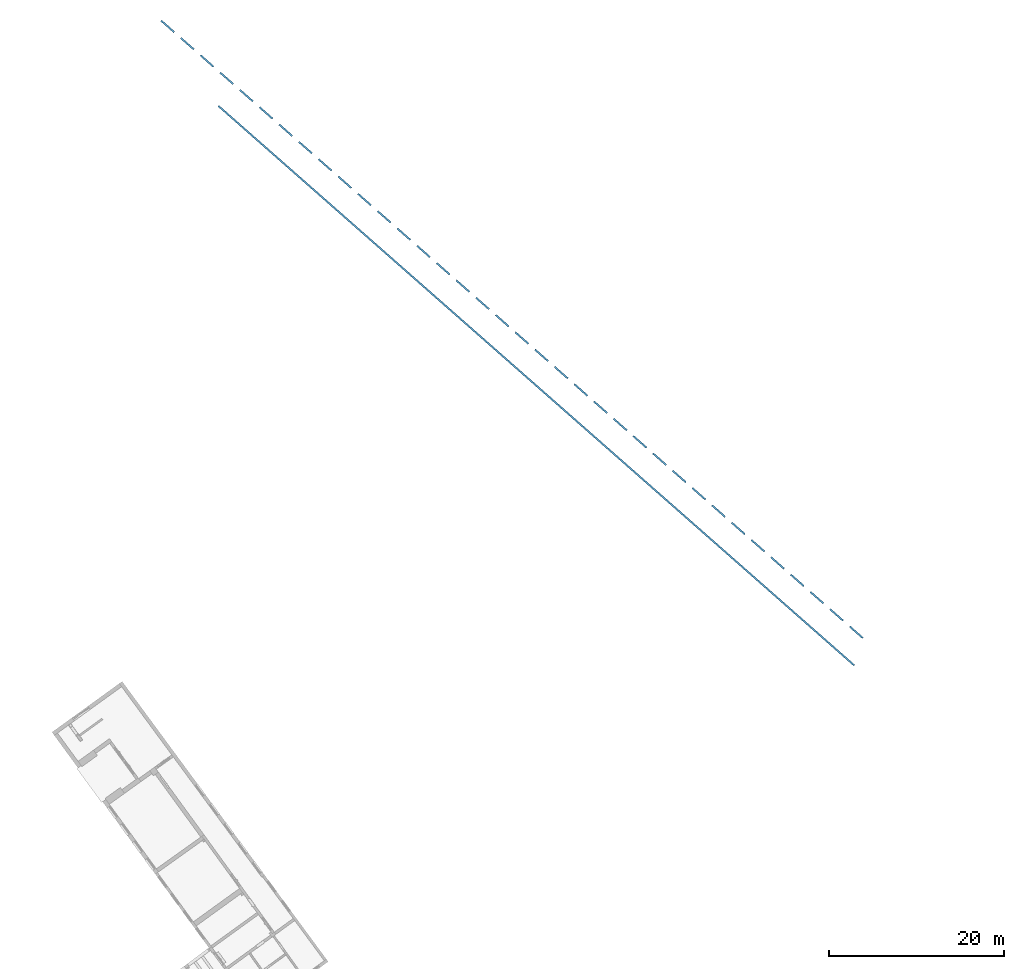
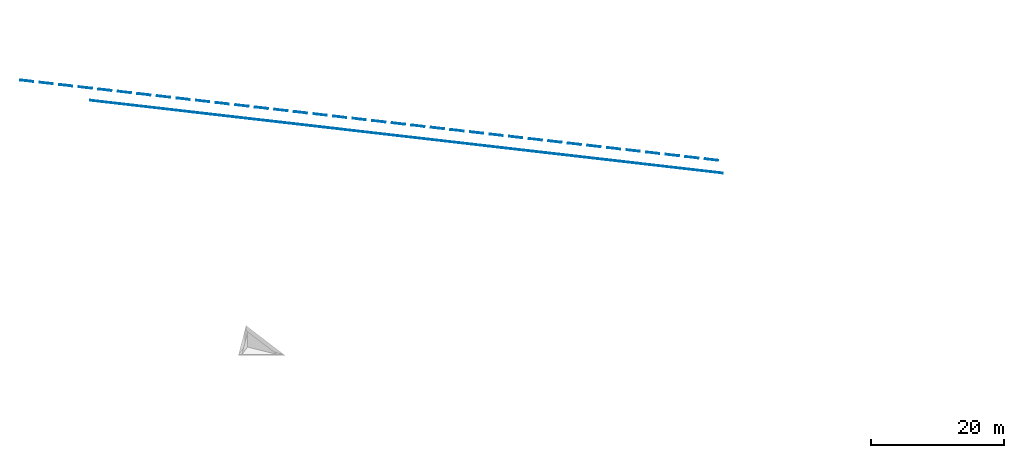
# One storey, part 107 of 157: 37 walls.
"""IFC2X3 building model written with IfcOpenShell, lengths in millimetres."""

from ifc_helpers import new_model, entity, si_unit, converted_unit, derived_unit, direction, frame, frame_2d, origin, origin_2d_with_axis, place, context, subcontext, project, spatial, rectangle, extrude, material, type_object, element, save


model = new_model("IFC2X3")

# Units and contexts
model_context = context("Model", 3, precision=0.01, world=origin(), true_north=direction((6.123031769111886e-17, 1.0)))
body_context = subcontext(model_context, "Body", "Model", "MODEL_VIEW")
ifc_project = project(units=[si_unit("LENGTHUNIT", "METRE", prefix="MILLI"), si_unit("AREAUNIT", "SQUARE_METRE"), si_unit("VOLUMEUNIT", "CUBIC_METRE"), converted_unit("PLANEANGLEUNIT", "DEGREE", entity("IfcRatioMeasure", 0.017453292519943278), si_unit("PLANEANGLEUNIT", "RADIAN"), dimensions=[0, 0, 0, 0, 0, 0, 0]), si_unit("MASSUNIT", "GRAM", prefix="KILO"), derived_unit("MASSDENSITYUNIT", [(si_unit("MASSUNIT", "GRAM", prefix="KILO"), 1), (si_unit("LENGTHUNIT", "METRE"), -3)]), derived_unit("MOMENTOFINERTIAUNIT", [(si_unit("LENGTHUNIT", "METRE"), 4)]), si_unit("TIMEUNIT", "SECOND"), si_unit("FREQUENCYUNIT", "HERTZ"), si_unit("THERMODYNAMICTEMPERATUREUNIT", "DEGREE_CELSIUS"), derived_unit("THERMALTRANSMITTANCEUNIT", [(si_unit("MASSUNIT", "GRAM", prefix="KILO"), 1), (si_unit("THERMODYNAMICTEMPERATUREUNIT", "KELVIN"), -1), (si_unit("TIMEUNIT", "SECOND"), -3)]), derived_unit("THERMALCONDUCTANCEUNIT", [(si_unit("MASSUNIT", "GRAM", prefix="KILO"), 1), (si_unit("LENGTHUNIT", "METRE"), 1), (si_unit("THERMODYNAMICTEMPERATUREUNIT", "KELVIN"), -1), (si_unit("TIMEUNIT", "SECOND"), -3)]), derived_unit("VOLUMETRICFLOWRATEUNIT", [(si_unit("LENGTHUNIT", "METRE"), 3), (si_unit("TIMEUNIT", "SECOND"), -1)]), derived_unit("MASSFLOWRATEUNIT", [(si_unit("MASSUNIT", "GRAM", prefix="KILO"), 1), (si_unit("TIMEUNIT", "SECOND"), -1)]), derived_unit("ROTATIONALFREQUENCYUNIT", [(si_unit("TIMEUNIT", "SECOND"), -1)]), si_unit("ELECTRICCURRENTUNIT", "AMPERE"), si_unit("ELECTRICVOLTAGEUNIT", "VOLT"), si_unit("POWERUNIT", "WATT"), converted_unit("FORCEUNIT", "KIP", entity("IfcRatioMeasure", 2.088543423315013e-05), si_unit("FORCEUNIT", "NEWTON"), dimensions=[1, 1, -2, 0, 0, 0, 0]), si_unit("ILLUMINANCEUNIT", "LUX"), si_unit("LUMINOUSFLUXUNIT", "LUMEN"), si_unit("LUMINOUSINTENSITYUNIT", "CANDELA"), derived_unit("USERDEFINED", [(si_unit("MASSUNIT", "GRAM", prefix="KILO"), -1), (si_unit("LENGTHUNIT", "METRE"), -2), (si_unit("TIMEUNIT", "SECOND"), 3), (si_unit("LUMINOUSFLUXUNIT", "LUMEN"), 1)]), derived_unit("USERDEFINED", [(si_unit("MASSUNIT", "GRAM", prefix="KILO"), 1), (si_unit("LENGTHUNIT", "METRE"), 3), (si_unit("TIMEUNIT", "SECOND"), -3), (si_unit("ELECTRICCURRENTUNIT", "AMPERE"), -2)]), derived_unit("USERDEFINED", [(si_unit("LENGTHUNIT", "METRE"), 2), (si_unit("TIMEUNIT", "SECOND"), -2)]), derived_unit("SOUNDPOWERUNIT", [(si_unit("MASSUNIT", "GRAM", prefix="KILO"), 1), (si_unit("LENGTHUNIT", "METRE"), 2), (si_unit("TIMEUNIT", "SECOND"), -3)]), derived_unit("SOUNDPRESSUREUNIT", [(si_unit("MASSUNIT", "GRAM", prefix="KILO"), 1), (si_unit("LENGTHUNIT", "METRE"), -1), (si_unit("TIMEUNIT", "SECOND"), -2)]), derived_unit("LINEARVELOCITYUNIT", [(si_unit("LENGTHUNIT", "METRE"), 1), (si_unit("TIMEUNIT", "SECOND"), -1)]), si_unit("PRESSUREUNIT", "PASCAL"), derived_unit("USERDEFINED", [(si_unit("LENGTHUNIT", "METRE"), -2), (si_unit("MASSUNIT", "GRAM", prefix="KILO"), 1), (si_unit("TIMEUNIT", "SECOND"), -2)]), derived_unit("LINEARFORCEUNIT", [(si_unit("MASSUNIT", "GRAM", prefix="KILO"), 1), (si_unit("LENGTHUNIT", "METRE"), 1), (si_unit("TIMEUNIT", "SECOND"), -2), (si_unit("LENGTHUNIT", "METRE"), -1)]), derived_unit("PLANARFORCEUNIT", [(si_unit("MASSUNIT", "GRAM", prefix="KILO"), 1), (si_unit("LENGTHUNIT", "METRE"), 1), (si_unit("TIMEUNIT", "SECOND"), -2), (si_unit("LENGTHUNIT", "METRE"), -2)]), derived_unit("SPECIFICHEATCAPACITYUNIT", [(si_unit("LENGTHUNIT", "METRE"), 2), (si_unit("TIMEUNIT", "SECOND"), -2), (si_unit("THERMODYNAMICTEMPERATUREUNIT", "KELVIN"), -1)]), derived_unit("VAPORPERMEABILITYUNIT", [(si_unit("TIMEUNIT", "SECOND"), 1), (si_unit("LENGTHUNIT", "METRE"), -1)]), derived_unit("DYNAMICVISCOSITYUNIT", [(si_unit("MASSUNIT", "GRAM", prefix="KILO"), 1), (si_unit("LENGTHUNIT", "METRE"), -1), (si_unit("TIMEUNIT", "SECOND"), -1)]), derived_unit("THERMALEXPANSIONCOEFFICIENTUNIT", [(si_unit("THERMODYNAMICTEMPERATUREUNIT", "KELVIN"), -1)])], contexts=[model_context])

# Site, building, storey
site_placement = place(None, frame((0.0, 0.0, 0.0), z_axis=(0.0, 0.0, 1.0), x_axis=(0.8191520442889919, 0.5735764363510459, 0.0)))
site = spatial("IfcSite", under=ifc_project, at=site_placement, Name="Default", CompositionType="ELEMENT")
building_placement = place(site_placement, origin())
building = spatial("IfcBuilding", under=site, at=building_placement, CompositionType="ELEMENT")
storey_placement = place(building_placement, origin())
storey = spatial("IfcBuildingStorey", under=building, at=storey_placement, Name="1.EG +0.00", CompositionType="ELEMENT", Elevation=-4.331468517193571e-12)

# Walls
ifc_material = material(Name="road_markirovka")
wall_type_1 = type_object("IfcWallType", Name="04", PredefinedType="NOTDEFINED", material=ifc_material)
wall_1_placement = place(storey_placement, frame((-134832.72497900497, 255660.8049366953, 0.0), z_axis=(0.0, 0.0, 1.0), x_axis=(0.0, 1.0, 0.0)))
element("IfcWall", 1, at=wall_1_placement, inside=storey, type_object=wall_type_1, material=ifc_material, Name="04 203791:04 203791", ObjectType="04 203791:04 203791", context=body_context, shape_type="SweptSolid", body=[
    extrude(rectangle(XDim=199.99999999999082, YDim=2000.0000000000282, at=frame_2d((8.419931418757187e-12, -2.0463630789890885e-12), x_axis=(1.0, 0.0))), frame((995.3372944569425, -333.28290221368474, 0.0), z_axis=(0.0, 0.0, 1.0), x_axis=(0.23611027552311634, -0.9717262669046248, 0.0)), (0.0, 0.0, 1.0), 9.999999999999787),
])
wall_type_2 = type_object("IfcWallType", Name="04", PredefinedType="NOTDEFINED", material=ifc_material)
wall_2_placement = place(storey_placement, frame((-134124.39415243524, 252745.62613598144, 0.0), z_axis=(0.0, 0.0, 1.0), x_axis=(0.0, 1.0, 0.0)))
element("IfcWall", 2, at=wall_2_placement, inside=storey, type_object=wall_type_2, material=ifc_material, Name="04 203795:04 203795", ObjectType="04 203795:04 203795", context=body_context, shape_type="SweptSolid", body=[
    extrude(rectangle(XDim=200.00000000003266, YDim=2000.000000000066, at=frame_2d((2.093258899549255e-11, 1.2789769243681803e-11), x_axis=(1.0, 0.0))), frame((995.3372944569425, -333.28290221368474, 0.0), z_axis=(0.0, 0.0, 1.0), x_axis=(0.2361102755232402, -0.9717262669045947, 0.0)), (0.0, 0.0, 1.0), 9.999999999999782),
])
wall_type_3 = type_object("IfcWallType", Name="04", PredefinedType="NOTDEFINED", material=ifc_material)
wall_3_placement = place(storey_placement, frame((-131999.40167272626, 244000.08973384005, 0.0), z_axis=(0.0, 0.0, 1.0), x_axis=(0.0, 1.0, 0.0)))
element("IfcWall", 3, at=wall_3_placement, inside=storey, type_object=wall_type_3, material=ifc_material, Name="04 203798:04 203798", ObjectType="04 203798:04 203798", context=body_context, shape_type="SweptSolid", body=[
    extrude(rectangle(XDim=199.99999999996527, YDim=2000.0000000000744, at=frame_2d((8.661515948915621e-12, -3.780087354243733e-11), x_axis=(1.0, 0.0))), frame((995.3372944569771, -333.282902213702, 0.0), z_axis=(0.0, 0.0, 1.0), x_axis=(0.2361102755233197, -0.9717262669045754, 0.0)), (0.0, 0.0, 1.0), 9.999999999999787),
])
wall_type_4 = type_object("IfcWallType", Name="04", PredefinedType="NOTDEFINED", material=ifc_material)
wall_4_placement = place(storey_placement, frame((-132707.73249929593, 246915.26853455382, 0.0), z_axis=(0.0, 0.0, 1.0), x_axis=(0.0, 1.0, 0.0)))
element("IfcWall", 4, at=wall_4_placement, inside=storey, type_object=wall_type_4, material=ifc_material, Name="04 203799:04 203799", ObjectType="04 203799:04 203799", context=body_context, shape_type="SweptSolid", body=[
    extrude(rectangle(XDim=199.99999999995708, YDim=2000.000000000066, at=frame_2d((1.27613475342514e-11, -2.091837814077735e-11), x_axis=(1.0, 0.0))), frame((995.3372944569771, -333.2829022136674, 0.0), z_axis=(0.0, 0.0, 1.0), x_axis=(0.2361102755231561, -0.9717262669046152, 0.0)), (0.0, 0.0, 1.0), 9.999999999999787),
])
wall_type_5 = type_object("IfcWallType", Name="04", PredefinedType="NOTDEFINED", material=ifc_material)
wall_5_placement = place(storey_placement, frame((-130582.74001958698, 238169.7321324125, 0.0), z_axis=(0.0, 0.0, 1.0), x_axis=(0.0, 1.0, 0.0)))
element("IfcWall", 5, at=wall_5_placement, inside=storey, type_object=wall_type_5, material=ifc_material, Name="04 203802:04 203802", ObjectType="04 203802:04 203802", context=body_context, shape_type="SweptSolid", body=[
    extrude(rectangle(XDim=200.00000000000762, YDim=1999.9999999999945, at=origin_2d_with_axis()), frame((995.3372944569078, -333.28290221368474, 0.0), z_axis=(0.0, 0.0, 1.0), x_axis=(0.23611027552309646, -0.9717262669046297, 0.0)), (0.0, 0.0, 1.0), 9.999999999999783),
])
wall_type_6 = type_object("IfcWallType", Name="04", PredefinedType="NOTDEFINED", material=ifc_material)
wall_6_placement = place(storey_placement, frame((-129874.40919301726, 235254.55333169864, 0.0), z_axis=(0.0, 0.0, 1.0), x_axis=(0.0, 1.0, 0.0)))
element("IfcWall", 6, at=wall_6_placement, inside=storey, type_object=wall_type_6, material=ifc_material, Name="04 203804:04 203804", ObjectType="04 203804:04 203804", context=body_context, shape_type="SweptSolid", body=[
    extrude(rectangle(XDim=200.00000000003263, YDim=2000.00000000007, at=frame_2d((-4.32720526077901e-12, 1.887201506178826e-11), x_axis=(1.0, 0.0))), frame((995.3372944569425, -333.28290221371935, 0.0), z_axis=(0.0, 0.0, 1.0), x_axis=(0.2361102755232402, -0.9717262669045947, 0.0)), (0.0, 0.0, 1.0), 9.999999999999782),
])
wall_type_7 = type_object("IfcWallType", Name="04", PredefinedType="NOTDEFINED", material=ifc_material)
wall_7_placement = place(storey_placement, frame((-131291.07084615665, 241084.91093312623, 0.0), z_axis=(0.0, 0.0, 1.0), x_axis=(0.0, 1.0, 0.0)))
element("IfcWall", 7, at=wall_7_placement, inside=storey, type_object=wall_type_7, material=ifc_material, Name="04 203806:04 203806", ObjectType="04 203806:04 203806", context=body_context, shape_type="SweptSolid", body=[
    extrude(rectangle(XDim=200.00000000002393, YDim=2000.0000000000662, at=frame_2d((-4.092726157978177e-12, -1.6825651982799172e-11), x_axis=(1.0, 0.0))), frame((995.3372944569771, -333.28290221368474, 0.0), z_axis=(0.0, 0.0, 1.0), x_axis=(0.23611027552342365, -0.9717262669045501, 0.0)), (0.0, 0.0, 1.0), 9.999999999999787),
])
wall_type_8 = type_object("IfcWallType", Name="04", PredefinedType="NOTDEFINED", material=ifc_material)
wall_8_placement = place(storey_placement, frame((-133416.06332586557, 249830.44733526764, 0.0), z_axis=(0.0, 0.0, 1.0), x_axis=(0.0, 1.0, 0.0)))
element("IfcWall", 8, at=wall_8_placement, inside=storey, type_object=wall_type_8, material=ifc_material, Name="04 203808:04 203808", ObjectType="04 203808:04 203808", context=body_context, shape_type="SweptSolid", body=[
    extrude(rectangle(XDim=200.00000000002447, YDim=2000.0000000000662, at=origin_2d_with_axis()), frame((995.3372944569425, -333.282902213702, 0.0), z_axis=(0.0, 0.0, 1.0), x_axis=(0.2361102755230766, -0.9717262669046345, 0.0)), (0.0, 0.0, 1.0), 9.999999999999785),
])
wall_type_9 = type_object("IfcWallType", Name="04", PredefinedType="NOTDEFINED", material=ifc_material)
wall_9_placement = place(storey_placement, frame((-127749.41671330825, 226509.01692955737, 0.0), z_axis=(0.0, 0.0, 1.0), x_axis=(0.0, 1.0, 0.0)))
element("IfcWall", 9, at=wall_9_placement, inside=storey, type_object=wall_type_9, material=ifc_material, Name="04 203810:04 203810", ObjectType="04 203810:04 203810", context=body_context, shape_type="SweptSolid", body=[
    extrude(rectangle(XDim=199.9999999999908, YDim=2000.0000000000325, at=frame_2d((4.092726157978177e-12, 1.6768808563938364e-11), x_axis=(1.0, 0.0))), frame((995.3372944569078, -333.28290221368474, 0.0), z_axis=(0.0, 0.0, 1.0), x_axis=(0.23611027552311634, -0.9717262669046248, 0.0)), (0.0, 0.0, 1.0), 9.999999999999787),
])
wall_type_10 = type_object("IfcWallType", Name="04", PredefinedType="NOTDEFINED", material=ifc_material)
wall_10_placement = place(storey_placement, frame((-129166.07836644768, 232339.37453098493, 0.0), z_axis=(0.0, 0.0, 1.0), x_axis=(0.0, 1.0, 0.0)))
element("IfcWall", 10, at=wall_10_placement, inside=storey, type_object=wall_type_10, material=ifc_material, Name="04 203811:04 203811", ObjectType="04 203811:04 203811", context=body_context, shape_type="SweptSolid", body=[
    extrude(rectangle(XDim=200.00000000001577, YDim=2000.000000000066, at=frame_2d((-4.092726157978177e-12, -1.688249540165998e-11), x_axis=(1.0, 0.0))), frame((995.3372944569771, -333.282902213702, 0.0), z_axis=(0.0, 0.0, 1.0), x_axis=(0.23611027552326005, -0.9717262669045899, 0.0)), (0.0, 0.0, 1.0), 9.999999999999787),
])
wall_type_11 = type_object("IfcWallType", Name="04", PredefinedType="NOTDEFINED", material=ifc_material)
wall_11_placement = place(storey_placement, frame((-127041.08588673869, 223593.83812884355, 0.0), z_axis=(0.0, 0.0, 1.0), x_axis=(0.0, 1.0, 0.0)))
element("IfcWall", 11, at=wall_11_placement, inside=storey, type_object=wall_type_11, material=ifc_material, Name="04 203813:04 203813", ObjectType="04 203813:04 203813", context=body_context, shape_type="SweptSolid", body=[
    extrude(rectangle(XDim=199.9999999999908, YDim=2000.0000000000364, at=frame_2d((1.2740031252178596e-11, -2.086153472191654e-11), x_axis=(1.0, 0.0))), frame((995.3372944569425, -333.28290221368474, 0.0), z_axis=(0.0, 0.0, 1.0), x_axis=(0.23611027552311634, -0.9717262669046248, 0.0)), (0.0, 0.0, 1.0), 9.999999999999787),
])
wall_type_12 = type_object("IfcWallType", Name="04", PredefinedType="NOTDEFINED", material=ifc_material)
wall_12_placement = place(storey_placement, frame((-128457.74753987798, 229424.19573027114, 0.0), z_axis=(0.0, 0.0, 1.0), x_axis=(0.0, 1.0, 0.0)))
element("IfcWall", 12, at=wall_12_placement, inside=storey, type_object=wall_type_12, material=ifc_material, Name="04 203815:04 203815", ObjectType="04 203815:04 203815", context=body_context, shape_type="SweptSolid", body=[
    extrude(rectangle(XDim=199.9999999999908, YDim=2000.00000000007, at=frame_2d((2.0683899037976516e-11, 4.843059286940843e-11), x_axis=(1.0, 0.0))), frame((995.3372944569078, -333.282902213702, 0.0), z_axis=(0.0, 0.0, 1.0), x_axis=(0.23611027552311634, -0.9717262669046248, 0.0)), (0.0, 0.0, 1.0), 9.999999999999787),
])
wall_type_13 = type_object("IfcWallType", Name="04", PredefinedType="NOTDEFINED", material=ifc_material)
wall_13_placement = place(storey_placement, frame((-124916.0934070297, 214848.30172670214, 0.0), z_axis=(0.0, 0.0, 1.0), x_axis=(0.0, 1.0, 0.0)))
element("IfcWall", 13, at=wall_13_placement, inside=storey, type_object=wall_type_13, material=ifc_material, Name="04 203816:04 203816", ObjectType="04 203816:04 203816", context=body_context, shape_type="SweptSolid", body=[
    extrude(rectangle(XDim=200.00000000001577, YDim=2000.000000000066, at=frame_2d((-1.660538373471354e-11, -3.154809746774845e-11), x_axis=(1.0, 0.0))), frame((995.3372944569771, -333.282902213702, 0.0), z_axis=(0.0, 0.0, 1.0), x_axis=(0.23611027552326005, -0.9717262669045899, 0.0)), (0.0, 0.0, 1.0), 9.999999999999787),
])
wall_type_14 = type_object("IfcWallType", Name="04", PredefinedType="NOTDEFINED", material=ifc_material)
wall_14_placement = place(storey_placement, frame((-124207.76258045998, 211933.1229259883, 0.0), z_axis=(0.0, 0.0, 1.0), x_axis=(0.0, 1.0, 0.0)))
element("IfcWall", 14, at=wall_14_placement, inside=storey, type_object=wall_type_14, material=ifc_material, Name="04 203819:04 203819", ObjectType="04 203819:04 203819", context=body_context, shape_type="SweptSolid", body=[
    extrude(rectangle(XDim=200.00000000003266, YDim=2000.000000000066, at=frame_2d((1.2512657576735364e-11, 1.4836132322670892e-11), x_axis=(1.0, 0.0))), frame((995.3372944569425, -333.28290221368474, 0.0), z_axis=(0.0, 0.0, 1.0), x_axis=(0.2361102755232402, -0.9717262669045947, 0.0)), (0.0, 0.0, 1.0), 9.999999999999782),
])
wall_type_15 = type_object("IfcWallType", Name="04", PredefinedType="NOTDEFINED", material=ifc_material)
wall_15_placement = place(storey_placement, frame((-125624.42423359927, 217763.48052741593, 0.0), z_axis=(0.0, 0.0, 1.0), x_axis=(0.0, 1.0, 0.0)))
element("IfcWall", 15, at=wall_15_placement, inside=storey, type_object=wall_type_15, material=ifc_material, Name="04 203822:04 203822", ObjectType="04 203822:04 203822", context=body_context, shape_type="SweptSolid", body=[
    extrude(rectangle(XDim=200.0000000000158, YDim=2000.000000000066, at=origin_2d_with_axis()), frame((995.3372944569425, -333.28290221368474, 0.0), z_axis=(0.0, 0.0, 1.0), x_axis=(0.23611027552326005, -0.9717262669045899, 0.0)), (0.0, 0.0, 1.0), 9.999999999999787),
])
wall_type_16 = type_object("IfcWallType", Name="04", PredefinedType="NOTDEFINED", material=ifc_material)
wall_16_placement = place(storey_placement, frame((-126332.75506016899, 220678.65932812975, 0.0), z_axis=(0.0, 0.0, 1.0), x_axis=(0.0, 1.0, 0.0)))
element("IfcWall", 16, at=wall_16_placement, inside=storey, type_object=wall_type_16, material=ifc_material, Name="04 203824:04 203824", ObjectType="04 203824:04 203824", context=body_context, shape_type="SweptSolid", body=[
    extrude(rectangle(XDim=200.00000000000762, YDim=2000.00000000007, at=frame_2d((1.6832757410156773e-11, -4.149569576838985e-12), x_axis=(1.0, 0.0))), frame((995.3372944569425, -333.28290221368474, 0.0), z_axis=(0.0, 0.0, 1.0), x_axis=(0.23611027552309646, -0.9717262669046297, 0.0)), (0.0, 0.0, 1.0), 9.999999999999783),
])
wall_type_17 = type_object("IfcWallType", Name="04", PredefinedType="NOTDEFINED", material=ifc_material)
wall_17_placement = place(storey_placement, frame((-122791.10092732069, 206102.76532456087, 0.0), z_axis=(0.0, 0.0, 1.0), x_axis=(0.0, 1.0, 0.0)))
element("IfcWall", 17, at=wall_17_placement, inside=storey, type_object=wall_type_17, material=ifc_material, Name="04 203825:04 203825", ObjectType="04 203825:04 203825", context=body_context, shape_type="SweptSolid", body=[
    extrude(rectangle(XDim=200.00000000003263, YDim=1999.9999999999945, at=frame_2d((-4.320099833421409e-12, 1.887201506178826e-11), x_axis=(1.0, 0.0))), frame((995.3372944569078, -333.282902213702, 0.0), z_axis=(0.0, 0.0, 1.0), x_axis=(0.2361102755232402, -0.9717262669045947, 0.0)), (0.0, 0.0, 1.0), 9.999999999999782),
])
wall_type_18 = type_object("IfcWallType", Name="04", PredefinedType="NOTDEFINED", material=ifc_material)
wall_18_placement = place(storey_placement, frame((-123499.43175389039, 209017.94412527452, 0.0), z_axis=(0.0, 0.0, 1.0), x_axis=(0.0, 1.0, 0.0)))
element("IfcWall", 18, at=wall_18_placement, inside=storey, type_object=wall_type_18, material=ifc_material, Name="04 203826:04 203826", ObjectType="04 203826:04 203826", context=body_context, shape_type="SweptSolid", body=[
    extrude(rectangle(XDim=200.000000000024, YDim=2000.0000000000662, at=frame_2d((-8.192557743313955e-12, -3.370814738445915e-11), x_axis=(1.0, 0.0))), frame((995.3372944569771, -333.282902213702, 0.0), z_axis=(0.0, 0.0, 1.0), x_axis=(0.23611027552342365, -0.9717262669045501, 0.0)), (0.0, 0.0, 1.0), 9.999999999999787),
])
wall_type_19 = type_object("IfcWallType", Name="04", PredefinedType="NOTDEFINED", material=ifc_material)
wall_19_placement = place(storey_placement, frame((-122082.77010075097, 203187.58652384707, 0.0), z_axis=(0.0, 0.0, 1.0), x_axis=(0.0, 1.0, 0.0)))
element("IfcWall", 19, at=wall_19_placement, inside=storey, type_object=wall_type_19, material=ifc_material, Name="04 203828:04 203828", ObjectType="04 203828:04 203828", context=body_context, shape_type="SweptSolid", body=[
    extrude(rectangle(XDim=200.00000000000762, YDim=2000.0000000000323, at=frame_2d((-1.2512657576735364e-11, -1.4779288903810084e-11), x_axis=(1.0, 0.0))), frame((995.3372944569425, -333.282902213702, 0.0), z_axis=(0.0, 0.0, 1.0), x_axis=(0.23611027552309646, -0.9717262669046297, 0.0)), (0.0, 0.0, 1.0), 9.999999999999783),
])
wall_type_20 = type_object("IfcWallType", Name="04", PredefinedType="NOTDEFINED", material=ifc_material)
wall_20_placement = place(storey_placement, frame((-121374.43927418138, 200272.40772313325, 0.0), z_axis=(0.0, 0.0, 1.0), x_axis=(0.0, 1.0, 0.0)))
element("IfcWall", 20, at=wall_20_placement, inside=storey, type_object=wall_type_20, material=ifc_material, Name="04 203830:04 203830", ObjectType="04 203830:04 203830", context=body_context, shape_type="SweptSolid", body=[
    extrude(rectangle(XDim=200.00000000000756, YDim=2000.0000000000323, at=frame_2d((1.2512657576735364e-11, 1.4779288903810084e-11), x_axis=(1.0, 0.0))), frame((995.3372944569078, -333.28290221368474, 0.0), z_axis=(0.0, 0.0, 1.0), x_axis=(0.23611027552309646, -0.9717262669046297, 0.0)), (0.0, 0.0, 1.0), 9.999999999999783),
])
wall_type_21 = type_object("IfcWallType", Name="04", PredefinedType="NOTDEFINED", material=ifc_material)
wall_21_placement = place(storey_placement, frame((-120666.10844761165, 197357.22892241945, 0.0), z_axis=(0.0, 0.0, 1.0), x_axis=(0.0, 1.0, 0.0)))
element("IfcWall", 21, at=wall_21_placement, inside=storey, type_object=wall_type_21, material=ifc_material, Name="04 203831:04 203831", ObjectType="04 203831:04 203831", context=body_context, shape_type="SweptSolid", body=[
    extrude(rectangle(XDim=199.99999999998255, YDim=2000.000000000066, at=origin_2d_with_axis()), frame((995.3372944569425, -333.28290221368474, 0.0), z_axis=(0.0, 0.0, 1.0), x_axis=(0.23611027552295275, -0.9717262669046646, 0.0)), (0.0, 0.0, 1.0), 9.999999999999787),
])
wall_type_22 = type_object("IfcWallType", Name="04", PredefinedType="NOTDEFINED", material=ifc_material)
wall_22_placement = place(storey_placement, frame((-119957.77762104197, 194442.05012170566, 0.0), z_axis=(0.0, 0.0, 1.0), x_axis=(0.0, 1.0, 0.0)))
element("IfcWall", 22, at=wall_22_placement, inside=storey, type_object=wall_type_22, material=ifc_material, Name="04 203837:04 203837", ObjectType="04 203837:04 203837", context=body_context, shape_type="SweptSolid", body=[
    extrude(rectangle(XDim=199.99999999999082, YDim=2000.0000000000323, at=frame_2d((-4.092726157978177e-12, -1.6768808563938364e-11), x_axis=(1.0, 0.0))), frame((995.3372944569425, -333.28290221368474, 0.0), z_axis=(0.0, 0.0, 1.0), x_axis=(0.23611027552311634, -0.9717262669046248, 0.0)), (0.0, 0.0, 1.0), 9.999999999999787),
])
wall_type_23 = type_object("IfcWallType", Name="04", PredefinedType="NOTDEFINED", material=ifc_material)
wall_23_placement = place(storey_placement, frame((-117832.78514133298, 185696.51371956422, 0.0), z_axis=(0.0, 0.0, 1.0), x_axis=(0.0, 1.0, 0.0)))
element("IfcWall", 23, at=wall_23_placement, inside=storey, type_object=wall_type_23, material=ifc_material, Name="04 203838:04 203838", ObjectType="04 203838:04 203838", context=body_context, shape_type="SweptSolid", body=[
    extrude(rectangle(XDim=199.99999999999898, YDim=2000.000000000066, at=origin_2d_with_axis()), frame((995.3372944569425, -333.28290221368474, 0.0), z_axis=(0.0, 0.0, 1.0), x_axis=(0.23611027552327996, -0.9717262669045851, 0.0)), (0.0, 0.0, 1.0), 9.999999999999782),
])
wall_type_24 = type_object("IfcWallType", Name="04", PredefinedType="NOTDEFINED", material=ifc_material)
wall_24_placement = place(storey_placement, frame((-117124.45431476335, 182781.33491885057, 0.0), z_axis=(0.0, 0.0, 1.0), x_axis=(0.0, 1.0, 0.0)))
element("IfcWall", 24, at=wall_24_placement, inside=storey, type_object=wall_type_24, material=ifc_material, Name="04 203839:04 203839", ObjectType="04 203839:04 203839", context=body_context, shape_type="SweptSolid", body=[
    extrude(rectangle(XDim=199.99999999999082, YDim=2000.0000000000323, at=frame_2d((-4.092726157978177e-12, -1.6768808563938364e-11), x_axis=(1.0, 0.0))), frame((995.3372944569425, -333.28290221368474, 0.0), z_axis=(0.0, 0.0, 1.0), x_axis=(0.23611027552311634, -0.9717262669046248, 0.0)), (0.0, 0.0, 1.0), 9.999999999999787),
])
wall_type_25 = type_object("IfcWallType", Name="04", PredefinedType="NOTDEFINED", material=ifc_material)
wall_25_placement = place(storey_placement, frame((-118541.11596790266, 188611.6925202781, 0.0), z_axis=(0.0, 0.0, 1.0), x_axis=(0.0, 1.0, 0.0)))
element("IfcWall", 25, at=wall_25_placement, inside=storey, type_object=wall_type_25, material=ifc_material, Name="04 203841:04 203841", ObjectType="04 203841:04 203841", context=body_context, shape_type="SweptSolid", body=[
    extrude(rectangle(XDim=199.99999999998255, YDim=2000.0000000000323, at=frame_2d((4.092726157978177e-12, 1.688249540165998e-11), x_axis=(1.0, 0.0))), frame((995.3372944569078, -333.28290221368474, 0.0), z_axis=(0.0, 0.0, 1.0), x_axis=(0.23611027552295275, -0.9717262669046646, 0.0)), (0.0, 0.0, 1.0), 9.999999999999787),
])
wall_type_26 = type_object("IfcWallType", Name="04", PredefinedType="NOTDEFINED", material=ifc_material)
wall_26_placement = place(storey_placement, frame((-115707.79266162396, 176950.97731742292, 0.0), z_axis=(0.0, 0.0, 1.0), x_axis=(0.0, 1.0, 0.0)))
element("IfcWall", 26, at=wall_26_placement, inside=storey, type_object=wall_type_26, material=ifc_material, Name="04 203843:04 203843", ObjectType="04 203843:04 203843", context=body_context, shape_type="SweptSolid", body=[
    extrude(rectangle(XDim=199.99999999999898, YDim=2000.0000000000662, at=frame_2d((-8.171241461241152e-12, -3.370814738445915e-11), x_axis=(1.0, 0.0))), frame((995.3372944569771, -333.28290221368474, 0.0), z_axis=(0.0, 0.0, 1.0), x_axis=(0.23611027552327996, -0.9717262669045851, 0.0)), (0.0, 0.0, 1.0), 9.999999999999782),
])
wall_type_27 = type_object("IfcWallType", Name="04", PredefinedType="NOTDEFINED", material=ifc_material)
wall_27_placement = place(storey_placement, frame((-114999.46183505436, 174035.79851670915, 0.0), z_axis=(0.0, 0.0, 1.0), x_axis=(0.0, 1.0, 0.0)))
element("IfcWall", 27, at=wall_27_placement, inside=storey, type_object=wall_type_27, material=ifc_material, Name="04 203845:04 203845", ObjectType="04 203845:04 203845", context=body_context, shape_type="SweptSolid", body=[
    extrude(rectangle(XDim=199.99999999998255, YDim=2000.000000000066, at=frame_2d((4.092726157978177e-12, 1.688249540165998e-11), x_axis=(1.0, 0.0))), frame((995.3372944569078, -333.28290221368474, 0.0), z_axis=(0.0, 0.0, 1.0), x_axis=(0.23611027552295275, -0.9717262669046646, 0.0)), (0.0, 0.0, 1.0), 9.999999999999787),
])
wall_type_28 = type_object("IfcWallType", Name="04", PredefinedType="NOTDEFINED", material=ifc_material)
wall_28_placement = place(storey_placement, frame((-114291.13100848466, 171120.61971599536, 0.0), z_axis=(0.0, 0.0, 1.0), x_axis=(0.0, 1.0, 0.0)))
element("IfcWall", 28, at=wall_28_placement, inside=storey, type_object=wall_type_28, material=ifc_material, Name="04 203848:04 203848", ObjectType="04 203848:04 203848", context=body_context, shape_type="SweptSolid", body=[
    extrude(rectangle(XDim=199.9999999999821, YDim=2000.0000000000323, at=frame_2d((-4.092726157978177e-12, -1.6768808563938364e-11), x_axis=(1.0, 0.0))), frame((995.3372944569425, -333.28290221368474, 0.0), z_axis=(0.0, 0.0, 1.0), x_axis=(0.2361102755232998, -0.9717262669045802, 0.0)), (0.0, 0.0, 1.0), 9.999999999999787),
])
wall_type_29 = type_object("IfcWallType", Name="04", PredefinedType="NOTDEFINED", material=ifc_material)
wall_29_placement = place(storey_placement, frame((-113582.80018191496, 168205.4409152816, 0.0), z_axis=(0.0, 0.0, 1.0), x_axis=(0.0, 1.0, 0.0)))
element("IfcWall", 29, at=wall_29_placement, inside=storey, type_object=wall_type_29, material=ifc_material, Name="04 203850:04 203850", ObjectType="04 203850:04 203850", context=body_context, shape_type="SweptSolid", body=[
    extrude(rectangle(XDim=199.99999999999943, YDim=1999.9999999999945, at=frame_2d((-8.412825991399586e-12, 2.0463630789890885e-12), x_axis=(1.0, 0.0))), frame((995.3372944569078, -333.28290221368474, 0.0), z_axis=(0.0, 0.0, 1.0), x_axis=(0.23611027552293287, -0.9717262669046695, 0.0)), (0.0, 0.0, 1.0), 9.999999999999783),
])
wall_type_30 = type_object("IfcWallType", Name="04", PredefinedType="NOTDEFINED", material=ifc_material)
wall_30_placement = place(storey_placement, frame((-119249.44679447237, 191526.8713209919, 0.0), z_axis=(0.0, 0.0, 1.0), x_axis=(0.0, 1.0, 0.0)))
element("IfcWall", 30, at=wall_30_placement, inside=storey, type_object=wall_type_30, material=ifc_material, Name="04 203851:04 203851", ObjectType="04 203851:04 203851", context=body_context, shape_type="SweptSolid", body=[
    extrude(rectangle(XDim=200.0000000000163, YDim=1999.9999999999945, at=origin_2d_with_axis()), frame((995.3372944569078, -333.28290221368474, 0.0), z_axis=(0.0, 0.0, 1.0), x_axis=(0.236110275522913, -0.9717262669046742, 0.0)), (0.0, 0.0, 1.0), 9.999999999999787),
])
wall_type_31 = type_object("IfcWallType", Name="04", PredefinedType="NOTDEFINED", material=ifc_material)
wall_31_placement = place(storey_placement, frame((-112874.46935534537, 165290.2621145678, 0.0), z_axis=(0.0, 0.0, 1.0), x_axis=(0.0, 1.0, 0.0)))
element("IfcWall", 31, at=wall_31_placement, inside=storey, type_object=wall_type_31, material=ifc_material, Name="04 203853:04 203853", ObjectType="04 203853:04 203853", context=body_context, shape_type="SweptSolid", body=[
    extrude(rectangle(XDim=199.99999999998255, YDim=2000.0000000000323, at=frame_2d((4.092726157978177e-12, 1.688249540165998e-11), x_axis=(1.0, 0.0))), frame((995.3372944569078, -333.28290221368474, 0.0), z_axis=(0.0, 0.0, 1.0), x_axis=(0.23611027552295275, -0.9717262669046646, 0.0)), (0.0, 0.0, 1.0), 9.999999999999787),
])
wall_type_32 = type_object("IfcWallType", Name="04", PredefinedType="NOTDEFINED", material=ifc_material)
wall_32_placement = place(storey_placement, frame((-112166.13852877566, 162375.08331385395, 0.0), z_axis=(0.0, 0.0, 1.0), x_axis=(0.0, 1.0, 0.0)))
element("IfcWall", 32, at=wall_32_placement, inside=storey, type_object=wall_type_32, material=ifc_material, Name="04 203856:04 203856", ObjectType="04 203856:04 203856", context=body_context, shape_type="SweptSolid", body=[
    extrude(rectangle(XDim=199.99999999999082, YDim=2000.0000000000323, at=frame_2d((-4.092726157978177e-12, -1.6768808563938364e-11), x_axis=(1.0, 0.0))), frame((995.3372944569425, -333.28290221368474, 0.0), z_axis=(0.0, 0.0, 1.0), x_axis=(0.23611027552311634, -0.9717262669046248, 0.0)), (0.0, 0.0, 1.0), 9.999999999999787),
])
wall_type_33 = type_object("IfcWallType", Name="04", PredefinedType="NOTDEFINED", material=ifc_material)
wall_33_placement = place(storey_placement, frame((-111457.80770220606, 159459.90451314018, 0.0), z_axis=(0.0, 0.0, 1.0), x_axis=(0.0, 1.0, 0.0)))
element("IfcWall", 33, at=wall_33_placement, inside=storey, type_object=wall_type_33, material=ifc_material, Name="04 203857:04 203857", ObjectType="04 203857:04 203857", context=body_context, shape_type="SweptSolid", body=[
    extrude(rectangle(XDim=200.00000000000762, YDim=2000.0000000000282, at=frame_2d((-1.2512657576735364e-11, -1.4779288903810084e-11), x_axis=(1.0, 0.0))), frame((995.3372944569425, -333.28290221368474, 0.0), z_axis=(0.0, 0.0, 1.0), x_axis=(0.23611027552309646, -0.9717262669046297, 0.0)), (0.0, 0.0, 1.0), 9.999999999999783),
])
wall_type_34 = type_object("IfcWallType", Name="04", PredefinedType="NOTDEFINED", material=ifc_material)
wall_34_placement = place(storey_placement, frame((-116416.12348819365, 179866.1561181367, 0.0), z_axis=(0.0, 0.0, 1.0), x_axis=(0.0, 1.0, 0.0)))
element("IfcWall", 34, at=wall_34_placement, inside=storey, type_object=wall_type_34, material=ifc_material, Name="04 203859:04 203859", ObjectType="04 203859:04 203859", context=body_context, shape_type="SweptSolid", body=[
    extrude(rectangle(XDim=199.99999999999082, YDim=2000.000000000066, at=origin_2d_with_axis()), frame((995.3372944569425, -333.28290221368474, 0.0), z_axis=(0.0, 0.0, 1.0), x_axis=(0.23611027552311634, -0.9717262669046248, 0.0)), (0.0, 0.0, 1.0), 9.999999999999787),
])
wall_type_35 = type_object("IfcWallType", Name="04", PredefinedType="NOTDEFINED", material=ifc_material)
wall_35_placement = place(storey_placement, frame((-110749.47687563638, 156544.72571242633, 0.0), z_axis=(0.0, 0.0, 1.0), x_axis=(0.0, 1.0, 0.0)))
element("IfcWall", 35, at=wall_35_placement, inside=storey, type_object=wall_type_35, material=ifc_material, Name="04 203861:04 203861", ObjectType="04 203861:04 203861", context=body_context, shape_type="SweptSolid", body=[
    extrude(rectangle(XDim=200.00000000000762, YDim=2000.000000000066, at=frame_2d((-8.419931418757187e-12, 2.1032064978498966e-12), x_axis=(1.0, 0.0))), frame((995.3372944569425, -333.282902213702, 0.0), z_axis=(0.0, 0.0, 1.0), x_axis=(0.23611027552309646, -0.9717262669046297, 0.0)), (0.0, 0.0, 1.0), 9.999999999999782),
])
wall_type_36 = type_object("IfcWallType", Name="04", PredefinedType="NOTDEFINED", material=ifc_material)
wall_36_placement = place(storey_placement, frame((-110041.14604906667, 153629.54691171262, 0.0), z_axis=(0.0, 0.0, 1.0), x_axis=(0.0, 1.0, 0.0)))
element("IfcWall", 36, at=wall_36_placement, inside=storey, type_object=wall_type_36, material=ifc_material, Name="04 203863:04 203863", ObjectType="04 203863:04 203863", context=body_context, shape_type="SweptSolid", body=[
    extrude(rectangle(XDim=199.99999999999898, YDim=2000.000000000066, at=origin_2d_with_axis()), frame((995.3372944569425, -333.28290221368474, 0.0), z_axis=(0.0, 0.0, 1.0), x_axis=(0.23611027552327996, -0.9717262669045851, 0.0)), (0.0, 0.0, 1.0), 9.999999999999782),
])
wall_type_37 = type_object("IfcWallType", Name="04", PredefinedType="NOTDEFINED", material=ifc_material)
wall_37_placement = place(storey_placement, frame((-135065.97144304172, 151636.71954743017, -100.0), z_axis=(0.0, 0.0, 1.0), x_axis=(0.0, 1.0, 0.0)))
element("IfcWall", 37, at=wall_37_placement, inside=storey, type_object=wall_type_37, material=ifc_material, Name="04 203864:04 203864", ObjectType="04 203864:04 203864", context=body_context, shape_type="SweptSolid", body=[
    extrude(rectangle(XDim=199.999999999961, YDim=96963.05660670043, at=frame_2d((4.334310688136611e-12, -1.4551915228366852e-11), x_axis=(1.0, 0.0))), frame((47134.38550496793, -11544.15977584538, 0.0), z_axis=(0.0, 0.0, 1.0), x_axis=(-0.23611027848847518, 0.9717262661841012, 0.0)), (0.0, 0.0, 1.0), 9.99999999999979),
])

save(model, "model.ifc")
